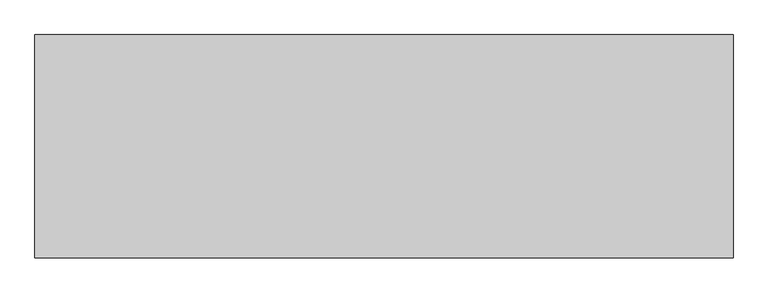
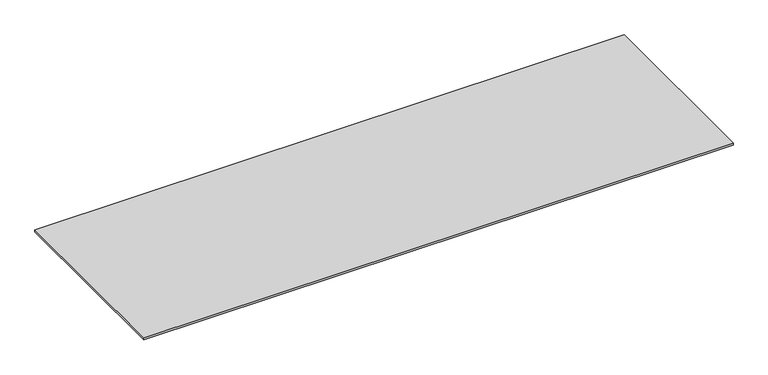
"""IFC4 building model written with IfcOpenShell, lengths in millimetres: furniture geometry, Bancada_balcao : Bancada cantina."""

from ifc_helpers import new_model, si_unit, frame, origin, place, context, project, spatial, polyline, outline, extrude, source, transform, mapped, element, save


def furniture_a915ab25(model_context):
    return source(origin(), model_context, "Body", "SweptSolid", [
        extrude(outline(polyline([(2544.7003264, 0.0), (2544.7003264, -1600.0), (-2455.2996736, -1600.0), (-2455.2996736, 0.0), (2544.7003264, 0.0)])), frame((0.0, 0.0, 880.0), z_axis=(0.0, 0.0, 1.0), x_axis=(1.0, 0.0, 0.0)), (0.0, 0.0, 1.0), 20.0),
    ])


if __name__ == "__main__":
    model = new_model("IFC4")
    model_context = context("Model", 3, world=origin())
    ifc_project = project(units=[si_unit("LENGTHUNIT", "METRE", prefix="MILLI")], contexts=[model_context])
    site = spatial("IfcSite", under=ifc_project)
    building = spatial("IfcBuilding", under=site)
    placement = place(None, origin())
    furniture_shape = furniture_a915ab25(model_context)
    element("IfcFurniture", 1, ObjectType="Bancada_balcao : Bancada cantina", at=placement, inside=building, context=model_context, shape_type="MappedRepresentation", body=[
        mapped(furniture_shape, transform((0.0, 0.0, 0.0), x_axis=(1.0, 0.0, 0.0), y_axis=(0.0, 1.0, 0.0), z_axis=(0.0, 0.0, 1.0))),
    ])
    save(model, "model.ifc")
